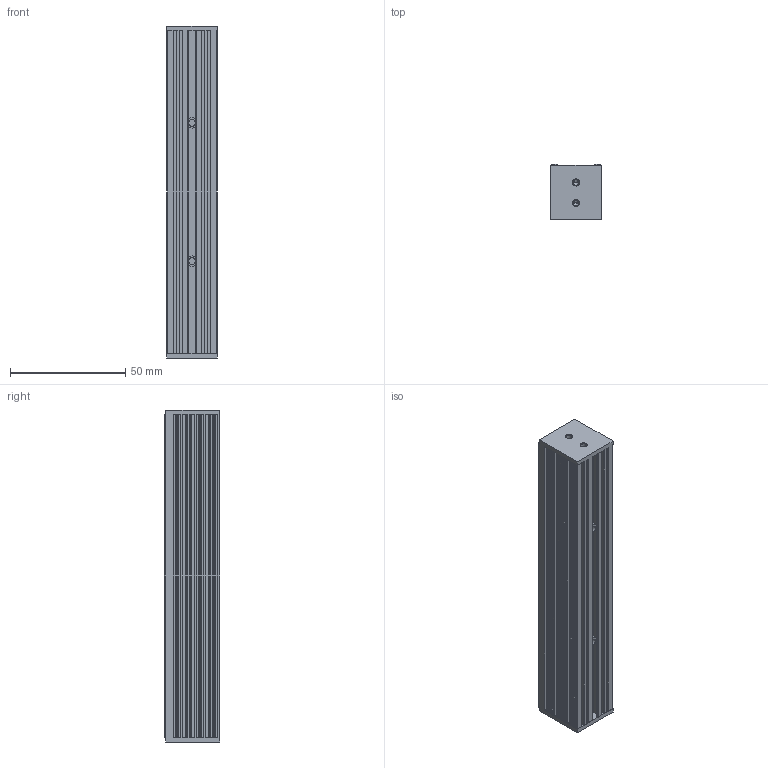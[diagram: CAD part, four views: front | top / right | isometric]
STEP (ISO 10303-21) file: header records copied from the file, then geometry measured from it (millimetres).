
FILE_DESCRIPTION((''),'2;1');
FILE_NAME('DSL','2020-03-23T',('ASUS'),(''),'PRO/ENGINEER BY PARAMETRIC TECHNOLOGY CORPORATION, 2008380','PRO/ENGINEER BY PARAMETRIC TECHNOLOGY CORPORATION, 2008380','');
FILE_SCHEMA(('CONFIG_CONTROL_DESIGN'));
Length unit declared in the file: millimetre
Products named in the file (1): DSL
Bounding box: 22 x 24.02 x 144 mm (x, y, z)
Volume: 66437.7 mm3; surface area: 26420.2 mm2
Topology: 1 solids, 5 shells, 276 faces, 712 edges, 464 vertices
Faces by surface type: plane 170, cylinder 86, cone 20
Entity records: 8380 total; most frequent: CARTESIAN_POINT 1512, DIRECTION 1415, ORIENTED_EDGE 1392, EDGE_CURVE 704, VECTOR 509, LINE 509, VERTEX_POINT 464, AXIS2_PLACEMENT_3D 453
